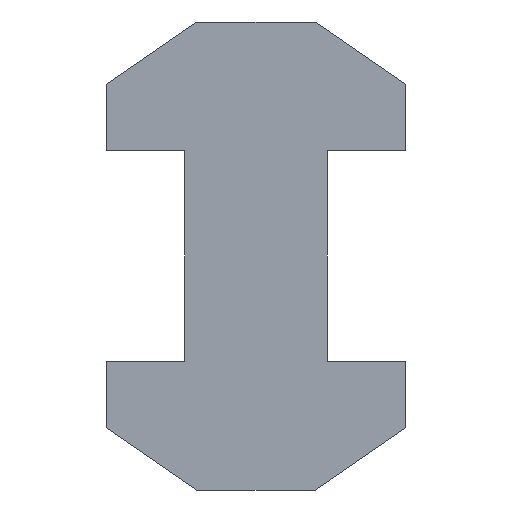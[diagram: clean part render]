
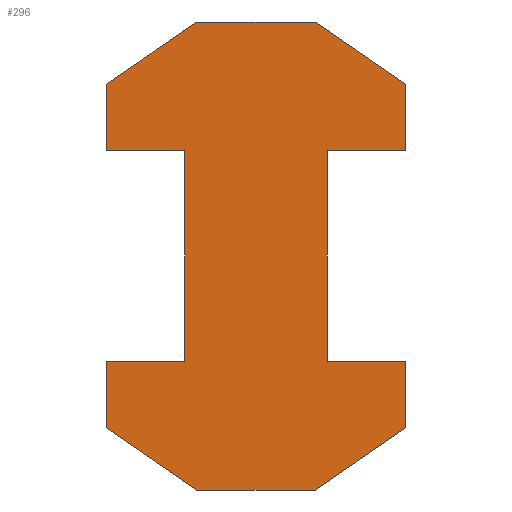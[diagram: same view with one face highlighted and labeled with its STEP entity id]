
A CAD part, front view. The second image highlights one B-rep face of the part: STEP entity #296.
In plain terms, the highlighted planar face has unit normal (0, -1, 0).
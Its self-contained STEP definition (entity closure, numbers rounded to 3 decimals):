
#1=DIRECTION('',(1.,0.,0.));
#2=VECTOR('',#1,5.3);
#3=CARTESIAN_POINT('',(-10.1,0.,-7.1));
#4=LINE('',#3,#2);
#5=DIRECTION('',(0.,0.,1.));
#6=VECTOR('',#5,14.2);
#7=CARTESIAN_POINT('',(-4.8,0.,-7.1));
#8=LINE('',#7,#6);
#9=DIRECTION('',(-1.,0.,0.));
#10=VECTOR('',#9,5.3);
#11=CARTESIAN_POINT('',(-4.8,0.,7.1));
#12=LINE('',#11,#10);
#13=DIRECTION('',(0.,0.,1.));
#14=VECTOR('',#13,4.5);
#15=CARTESIAN_POINT('',(-10.1,0.,7.1));
#16=LINE('',#15,#14);
#17=DIRECTION('',(0.824,0.,0.567));
#18=VECTOR('',#17,7.406);
#19=CARTESIAN_POINT('',(-10.1,0.,11.6));
#20=LINE('',#19,#18);
#21=DIRECTION('',(1.,0.,0.));
#22=VECTOR('',#21,8.);
#23=CARTESIAN_POINT('',(-4.,0.,15.8));
#24=LINE('',#23,#22);
#25=DIRECTION('',(0.824,0.,-0.567));
#26=VECTOR('',#25,7.406);
#27=CARTESIAN_POINT('',(4.,0.,15.8));
#28=LINE('',#27,#26);
#29=DIRECTION('',(0.,0.,-1.));
#30=VECTOR('',#29,4.5);
#31=CARTESIAN_POINT('',(10.1,0.,11.6));
#32=LINE('',#31,#30);
#33=DIRECTION('',(-1.,0.,0.));
#34=VECTOR('',#33,5.3);
#35=CARTESIAN_POINT('',(10.1,0.,7.1));
#36=LINE('',#35,#34);
#37=DIRECTION('',(0.,0.,-1.));
#38=VECTOR('',#37,14.2);
#39=CARTESIAN_POINT('',(4.8,0.,7.1));
#40=LINE('',#39,#38);
#41=DIRECTION('',(1.,0.,0.));
#42=VECTOR('',#41,5.3);
#43=CARTESIAN_POINT('',(4.8,0.,-7.1));
#44=LINE('',#43,#42);
#45=DIRECTION('',(0.,0.,-1.));
#46=VECTOR('',#45,4.5);
#47=CARTESIAN_POINT('',(10.1,0.,-7.1));
#48=LINE('',#47,#46);
#49=DIRECTION('',(-0.824,0.,-0.567));
#50=VECTOR('',#49,7.406);
#51=CARTESIAN_POINT('',(10.1,0.,-11.6));
#52=LINE('',#51,#50);
#53=DIRECTION('',(-1.,0.,0.));
#54=VECTOR('',#53,8.);
#55=CARTESIAN_POINT('',(4.,0.,-15.8));
#56=LINE('',#55,#54);
#57=DIRECTION('',(-0.824,0.,0.567));
#58=VECTOR('',#57,7.406);
#59=CARTESIAN_POINT('',(-4.,0.,-15.8));
#60=LINE('',#59,#58);
#61=DIRECTION('',(0.,0.,1.));
#62=VECTOR('',#61,4.5);
#63=CARTESIAN_POINT('',(-10.1,0.,-11.6));
#64=LINE('',#63,#62);
#193=CARTESIAN_POINT('',(-10.1,0.,-7.1));
#194=CARTESIAN_POINT('',(-4.8,0.,-7.1));
#195=VERTEX_POINT('',#193);
#196=VERTEX_POINT('',#194);
#197=CARTESIAN_POINT('',(-4.8,0.,7.1));
#198=VERTEX_POINT('',#197);
#199=CARTESIAN_POINT('',(-10.1,0.,7.1));
#200=VERTEX_POINT('',#199);
#201=CARTESIAN_POINT('',(-10.1,0.,11.6));
#202=VERTEX_POINT('',#201);
#203=CARTESIAN_POINT('',(-4.,0.,15.8));
#204=VERTEX_POINT('',#203);
#205=CARTESIAN_POINT('',(4.,0.,15.8));
#206=VERTEX_POINT('',#205);
#207=CARTESIAN_POINT('',(10.1,0.,11.6));
#208=VERTEX_POINT('',#207);
#209=CARTESIAN_POINT('',(10.1,0.,7.1));
#210=VERTEX_POINT('',#209);
#211=CARTESIAN_POINT('',(4.8,0.,7.1));
#212=VERTEX_POINT('',#211);
#213=CARTESIAN_POINT('',(4.8,0.,-7.1));
#214=VERTEX_POINT('',#213);
#215=CARTESIAN_POINT('',(10.1,0.,-7.1));
#216=VERTEX_POINT('',#215);
#217=CARTESIAN_POINT('',(10.1,0.,-11.6));
#218=VERTEX_POINT('',#217);
#219=CARTESIAN_POINT('',(4.,0.,-15.8));
#220=VERTEX_POINT('',#219);
#221=CARTESIAN_POINT('',(-4.,0.,-15.8));
#222=VERTEX_POINT('',#221);
#223=CARTESIAN_POINT('',(-10.1,0.,-11.6));
#224=VERTEX_POINT('',#223);
#257=CARTESIAN_POINT('',(0.,0.,0.));
#258=DIRECTION('',(0.,1.,0.));
#259=DIRECTION('',(1.,0.,0.));
#260=AXIS2_PLACEMENT_3D('',#257,#258,#259);
#261=PLANE('',#260);
#263=ORIENTED_EDGE('',*,*,#262,.T.);
#265=ORIENTED_EDGE('',*,*,#264,.T.);
#267=ORIENTED_EDGE('',*,*,#266,.T.);
#269=ORIENTED_EDGE('',*,*,#268,.T.);
#271=ORIENTED_EDGE('',*,*,#270,.T.);
#273=ORIENTED_EDGE('',*,*,#272,.T.);
#275=ORIENTED_EDGE('',*,*,#274,.T.);
#277=ORIENTED_EDGE('',*,*,#276,.T.);
#279=ORIENTED_EDGE('',*,*,#278,.T.);
#281=ORIENTED_EDGE('',*,*,#280,.T.);
#283=ORIENTED_EDGE('',*,*,#282,.T.);
#285=ORIENTED_EDGE('',*,*,#284,.T.);
#287=ORIENTED_EDGE('',*,*,#286,.T.);
#289=ORIENTED_EDGE('',*,*,#288,.T.);
#291=ORIENTED_EDGE('',*,*,#290,.T.);
#293=ORIENTED_EDGE('',*,*,#292,.T.);
#294=EDGE_LOOP('',(#263,#265,#267,#269,#271,#273,#275,#277,#279,#281,#283,#285,
#287,#289,#291,#293));
#295=FACE_OUTER_BOUND('',#294,.F.);
#296=ADVANCED_FACE('',(#295),#261,.F.);
#262=EDGE_CURVE('',#195,#196,#4,.T.);
#264=EDGE_CURVE('',#196,#198,#8,.T.);
#266=EDGE_CURVE('',#198,#200,#12,.T.);
#268=EDGE_CURVE('',#200,#202,#16,.T.);
#270=EDGE_CURVE('',#202,#204,#20,.T.);
#272=EDGE_CURVE('',#204,#206,#24,.T.);
#274=EDGE_CURVE('',#206,#208,#28,.T.);
#276=EDGE_CURVE('',#208,#210,#32,.T.);
#278=EDGE_CURVE('',#210,#212,#36,.T.);
#280=EDGE_CURVE('',#212,#214,#40,.T.);
#282=EDGE_CURVE('',#214,#216,#44,.T.);
#284=EDGE_CURVE('',#216,#218,#48,.T.);
#286=EDGE_CURVE('',#218,#220,#52,.T.);
#288=EDGE_CURVE('',#220,#222,#56,.T.);
#290=EDGE_CURVE('',#222,#224,#60,.T.);
#292=EDGE_CURVE('',#224,#195,#64,.T.);
